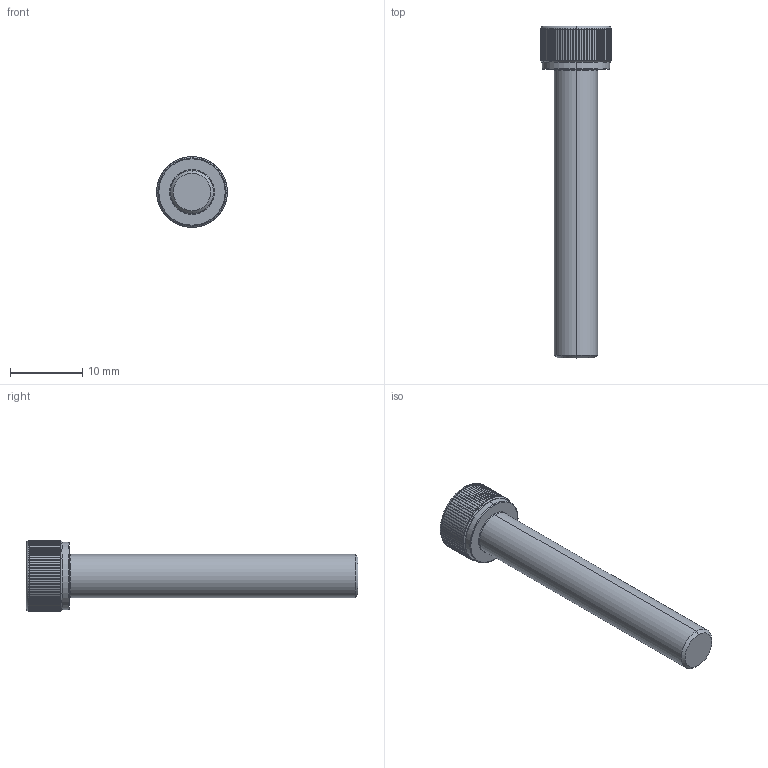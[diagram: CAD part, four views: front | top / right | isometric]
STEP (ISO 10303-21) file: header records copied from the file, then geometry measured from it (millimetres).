
FILE_DESCRIPTION (( 'STEP AP203' ), '1' );
FILE_NAME ('LGDT-304-M6x40.STEP', '2026-08-10T04:47:29', ( '' ), ( '' ), 'SwSTEP 2.0', 'SolidWorks 2020', '' );
FILE_SCHEMA (( 'CONFIG_CONTROL_DESIGN' ));
Length unit declared in the file: millimetre
Products named in the file (1): LGDT-304-M6x40
Bounding box: 9.8 x 46 x 9.8 mm (x, y, z)
Volume: 1497.7 mm3; surface area: 1131.7 mm2
Topology: 1 solids, 1 shells, 204 faces, 576 edges, 376 vertices
Faces by surface type: cylinder 175, cone 11, plane 10, torus 8
Entity records: 8367 total; most frequent: CARTESIAN_POINT 3208, ORIENTED_EDGE 1152, DIRECTION 988, EDGE_CURVE 576, AXIS2_PLACEMENT_3D 398, VERTEX_POINT 376, EDGE_LOOP 206, ADVANCED_FACE 204
